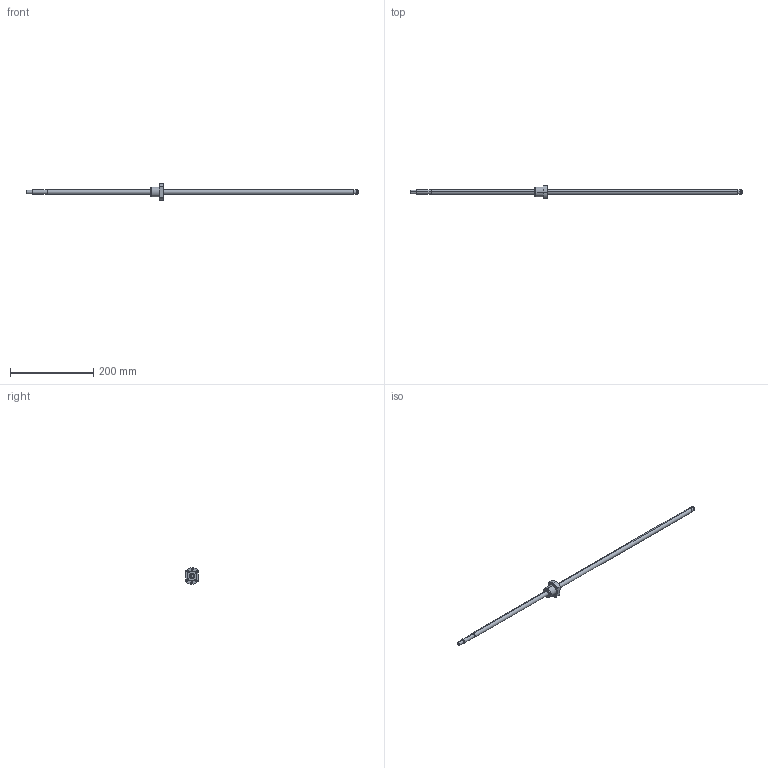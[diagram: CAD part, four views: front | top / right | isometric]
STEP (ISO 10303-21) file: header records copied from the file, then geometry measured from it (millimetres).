
FILE_DESCRIPTION (( 'STEP AP214' ), '1' );
FILE_NAME ('2.2120 SFS1205-800mm.STEP', '2025-09-19T08:29:06', ( '' ), ( '' ), 'SwSTEP 2.0', 'SolidWorks 2025', '' );
FILE_SCHEMA (( 'AUTOMOTIVE_DESIGN' ));
Length unit declared in the file: millimetre
Products named in the file (3): 2.3001 Kuularuuvimutteri SFS1205-2,8; 2.2120 SFS1205-800mm
Assembly tree (2 placements, depth 2):
  2.2120 SFS1205-800mm
    2.2120 SFS1205-800mm
    2.3001 Kuularuuvimutteri SFS1205-2,8
Bounding box: 800 x 30.98 x 39.97 mm (x, y, z)
Volume: 100366.8 mm3; surface area: 37152.2 mm2
Topology: 3 solids, 3 shells, 76 faces, 170 edges, 110 vertices
Faces by surface type: cylinder 44, plane 21, cone 11
Entity records: 2395 total; most frequent: DIRECTION 428, CARTESIAN_POINT 392, ORIENTED_EDGE 340, AXIS2_PLACEMENT_3D 180, EDGE_CURVE 170, VERTEX_POINT 110, EDGE_LOOP 102, CIRCLE 99
